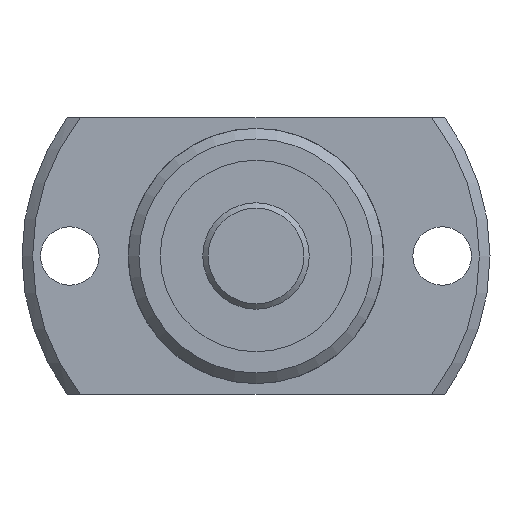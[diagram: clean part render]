
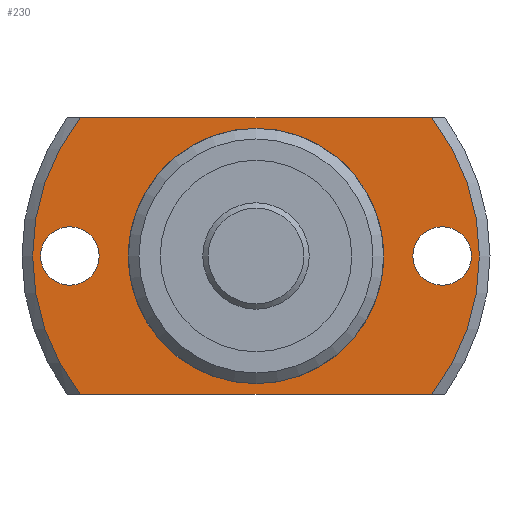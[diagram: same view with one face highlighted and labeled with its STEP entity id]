
A CAD part, left-side view. The second image highlights one B-rep face of the part: STEP entity #230.
In plain terms, the highlighted planar face has unit normal (-1, 0, 0).
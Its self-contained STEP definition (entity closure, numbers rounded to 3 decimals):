
#230 = ADVANCED_FACE( '', ( #475, #476, #477, #478 ), #479, .F. );
#475 = FACE_OUTER_BOUND( '', #739, .T. );
#476 = FACE_BOUND( '', #740, .T. );
#477 = FACE_BOUND( '', #741, .T. );
#478 = FACE_BOUND( '', #742, .T. );
#479 = PLANE( '', #743 );
#739 = EDGE_LOOP( '', ( #1206, #1207, #1208, #1209 ) );
#740 = EDGE_LOOP( '', ( #1210 ) );
#741 = EDGE_LOOP( '', ( #1211 ) );
#742 = EDGE_LOOP( '', ( #1212 ) );
#743 = AXIS2_PLACEMENT_3D( '', #1213, #1214, #1215 );
#1206 = ORIENTED_EDGE( '', *, *, #1586, .F. );
#1207 = ORIENTED_EDGE( '', *, *, #1563, .T. );
#1208 = ORIENTED_EDGE( '', *, *, #1478, .F. );
#1209 = ORIENTED_EDGE( '', *, *, #1587, .T. );
#1210 = ORIENTED_EDGE( '', *, *, #1505, .T. );
#1211 = ORIENTED_EDGE( '', *, *, #1588, .T. );
#1212 = ORIENTED_EDGE( '', *, *, #1415, .T. );
#1213 = CARTESIAN_POINT( '', ( 23., 11.75, 0. ) );
#1214 = DIRECTION( '', ( 1., 0., 0. ) );
#1215 = DIRECTION( '', ( 0., 0., -1. ) );
#1415 = EDGE_CURVE( '', #1633, #1633, #1634, .T. );
#1478 = EDGE_CURVE( '', #1740, #1741, #1742, .T. );
#1505 = EDGE_CURVE( '', #1784, #1784, #1785, .T. );
#1563 = EDGE_CURVE( '', #1874, #1741, #1875, .T. );
#1586 = EDGE_CURVE( '', #1874, #1901, #1902, .T. );
#1587 = EDGE_CURVE( '', #1740, #1901, #1903, .T. );
#1588 = EDGE_CURVE( '', #1904, #1904, #1905, .T. );
#1633 = VERTEX_POINT( '', #1957 );
#1634 = CIRCLE( '', #1958, 11.75 );
#1740 = VERTEX_POINT( '', #2112 );
#1741 = VERTEX_POINT( '', #2113 );
#1742 = CIRCLE( '', #2114, 21. );
#1784 = VERTEX_POINT( '', #2187 );
#1785 = CIRCLE( '', #2188, 2.75 );
#1874 = VERTEX_POINT( '', #2303 );
#1875 = LINE( '', #2304, #2305 );
#1901 = VERTEX_POINT( '', #2348 );
#1902 = CIRCLE( '', #2349, 21. );
#1903 = LINE( '', #2350, #2351 );
#1904 = VERTEX_POINT( '', #2352 );
#1905 = CIRCLE( '', #2353, 2.75 );
#1957 = CARTESIAN_POINT( '', ( 23., 0., -11.75 ) );
#1958 = AXIS2_PLACEMENT_3D( '', #2422, #2423, #2424 );
#2112 = CARTESIAN_POINT( '', ( 23., -16.492, 13. ) );
#2113 = CARTESIAN_POINT( '', ( 23., -16.492, -13. ) );
#2114 = AXIS2_PLACEMENT_3D( '', #2516, #2517, #2518 );
#2187 = CARTESIAN_POINT( '', ( 23., 17.5, -2.75 ) );
#2188 = AXIS2_PLACEMENT_3D( '', #2554, #2555, #2556 );
#2303 = CARTESIAN_POINT( '', ( 23., 16.492, -13. ) );
#2304 = CARTESIAN_POINT( '', ( 23., 11.75, -13. ) );
#2305 = VECTOR( '', #2634, 1000. );
#2348 = CARTESIAN_POINT( '', ( 23., 16.492, 13. ) );
#2349 = AXIS2_PLACEMENT_3D( '', #2649, #2650, #2651 );
#2350 = CARTESIAN_POINT( '', ( 23., 11.75, 13. ) );
#2351 = VECTOR( '', #2652, 1000. );
#2352 = CARTESIAN_POINT( '', ( 23., -17.5, -2.75 ) );
#2353 = AXIS2_PLACEMENT_3D( '', #2653, #2654, #2655 );
#2422 = CARTESIAN_POINT( '', ( 23., 0., 0. ) );
#2423 = DIRECTION( '', ( 1., 0., 0. ) );
#2424 = DIRECTION( '', ( 0., 0., -1. ) );
#2516 = CARTESIAN_POINT( '', ( 23., 0., 0. ) );
#2517 = DIRECTION( '', ( 1., 0., 0. ) );
#2518 = DIRECTION( '', ( 0., 0., -1. ) );
#2554 = CARTESIAN_POINT( '', ( 23., 17.5, 0. ) );
#2555 = DIRECTION( '', ( 1., 0., 0. ) );
#2556 = DIRECTION( '', ( 0., 0., -1. ) );
#2634 = DIRECTION( '', ( 0., -1., 0. ) );
#2649 = CARTESIAN_POINT( '', ( 23., 0., 0. ) );
#2650 = DIRECTION( '', ( 1., 0., 0. ) );
#2651 = DIRECTION( '', ( 0., 0., -1. ) );
#2652 = DIRECTION( '', ( 0., 1., 0. ) );
#2653 = CARTESIAN_POINT( '', ( 23., -17.5, 0. ) );
#2654 = DIRECTION( '', ( 1., 0., 0. ) );
#2655 = DIRECTION( '', ( 0., 0., -1. ) );
